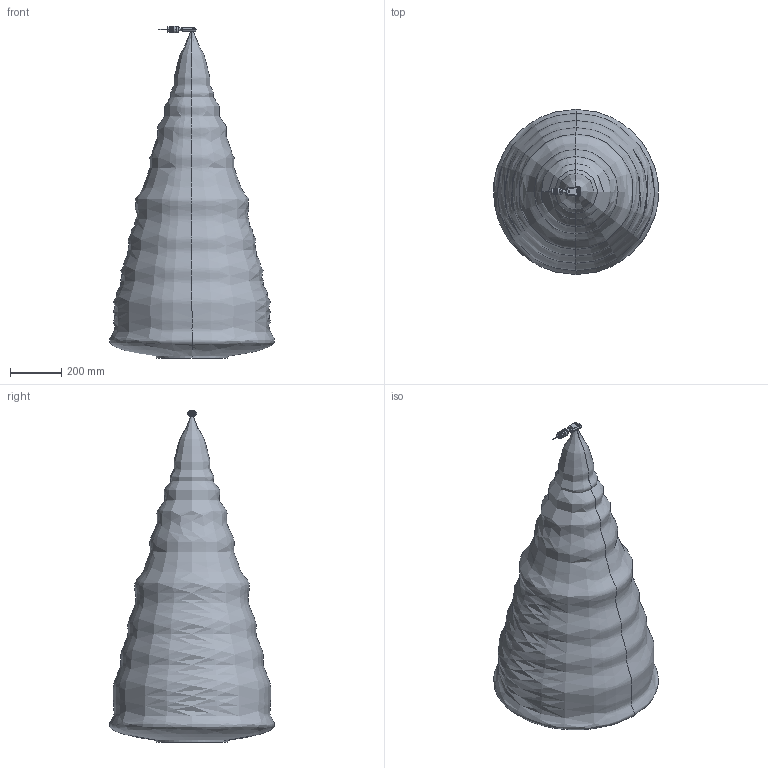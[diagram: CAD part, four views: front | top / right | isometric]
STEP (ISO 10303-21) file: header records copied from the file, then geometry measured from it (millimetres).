
FILE_DESCRIPTION (( 'STEP AP203' ), '1' );
FILE_NAME ('pms-xxx_yy_A1.STEP', '2024-01-25T10:40:33', ( '' ), ( '' ), 'SwSTEP 2.0', 'SolidWorks 2024', '' );
FILE_SCHEMA (( 'CONFIG_CONTROL_DESIGN' ));
Length unit declared in the file: millimetre
Products named in the file (8): pms-xxx_yy_A1(2); Schallfeld pms+35 Platte; pms-xxx_yy_A1; Schallfeld pms+100 Rohr; Schallfeld pms+100 Platte; KSTG-M8; Schallfeld pms+35 Rohr; SKINTOP Hygienic-M20x1,5      Art. Nr. 531051209
Assembly tree (7 placements, depth 2):
  pms-xxx_yy_A1
    pms-xxx_yy_A1(2)
    KSTG-M8
    SKINTOP Hygienic-M20x1,5      Art. Nr. 531051209
    Schallfeld pms+100 Platte
    Schallfeld pms+100 Rohr
    Schallfeld pms+35 Platte
    Schallfeld pms+35 Rohr
Bounding box: 642.16 x 642.77 x 1291.81 mm (x, y, z)
Volume: 269824168.1 mm3; surface area: 3428918.5 mm2
Topology: 7 solids, 7 shells, 912 faces, 2398 edges, 1566 vertices
Faces by surface type: plane 421, bspline 211, cylinder 135, torus 82, cone 55, sphere 8
Entity records: 31936 total; most frequent: CARTESIAN_POINT 9789, ORIENTED_EDGE 4764, DIRECTION 3874, EDGE_CURVE 2382, VERTEX_POINT 1558, VECTOR 1300, LINE 1300, AXIS2_PLACEMENT_3D 1287
